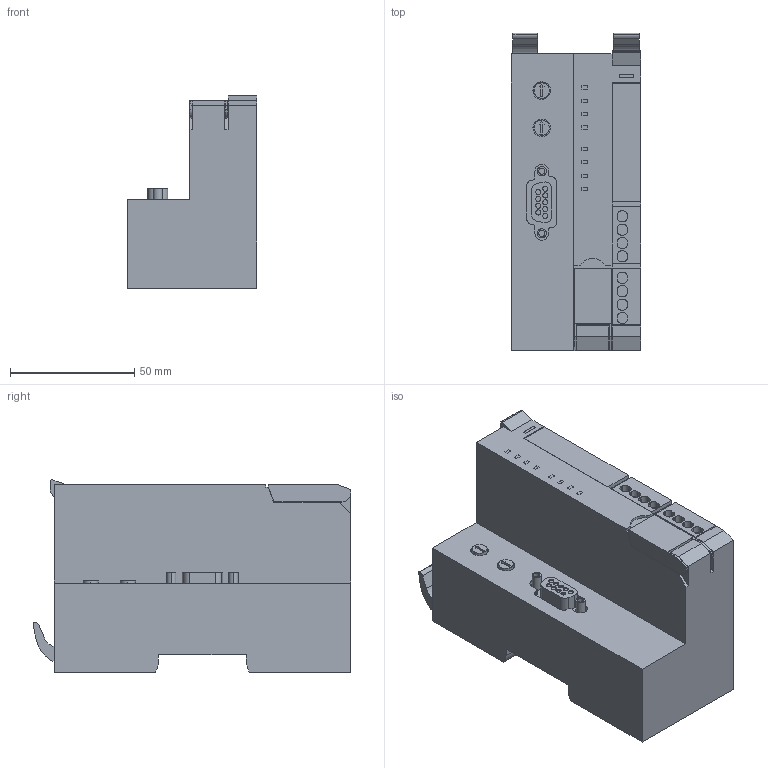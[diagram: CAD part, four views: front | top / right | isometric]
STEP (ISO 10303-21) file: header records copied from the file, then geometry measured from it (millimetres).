
FILE_DESCRIPTION((''),'2;1');
FILE_NAME('ASM0001_ASM','2019-03-20T',('XE51514'),(''),'CREO PARAMETRIC BY PTC INC, 2017480','CREO PARAMETRIC BY PTC INC, 2017480','');
FILE_SCHEMA(('CONFIG_CONTROL_DESIGN'));
Length unit declared in the file: millimetre
Products named in the file (3): PRT0001; PRT0002; ASM0001_ASM
Assembly tree (2 placements, depth 2):
  ASM0001_ASM
    PRT0001
    PRT0002
Bounding box: 52 x 127.89 x 77.45 mm (x, y, z)
Volume: 338509.4 mm3; surface area: 40768.3 mm2
Topology: 2 solids, 2 shells, 329 faces, 860 edges, 576 vertices
Faces by surface type: plane 230, cylinder 99
Entity records: 10569 total; most frequent: CARTESIAN_POINT 2179, ORIENTED_EDGE 1720, DIRECTION 1715, EDGE_CURVE 860, VECTOR 647, LINE 647, VERTEX_POINT 576, AXIS2_PLACEMENT_3D 534
